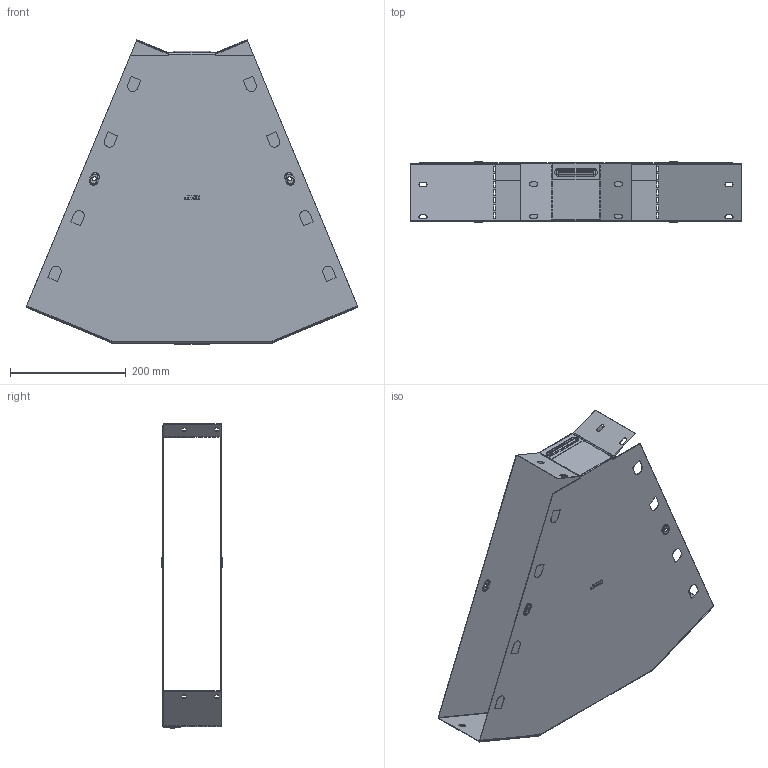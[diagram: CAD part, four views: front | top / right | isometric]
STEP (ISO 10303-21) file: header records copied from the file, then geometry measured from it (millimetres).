
FILE_DESCRIPTION (( 'STEP AP214' ), '1' );
FILE_NAME ('g45100500_捘.STEP', '2019-06-10T08:37:40', ( '砐錪賧瘔蠈錪 Windows' ), ( '' ), 'SwSTEP 2.0', 'SolidWorks 2018', '' );
FILE_SCHEMA (( 'AUTOMOTIVE_DESIGN' ));
Length unit declared in the file: millimetre
Products named in the file (1): g45100500_捘
Bounding box: 573.02 x 103.8 x 525.57 mm (x, y, z)
Volume: 383352.7 mm3; surface area: 963725 mm2
Topology: 2 solids, 2 shells, 644 faces, 1816 edges, 1148 vertices
Faces by surface type: plane 370, cylinder 192, torus 64, bspline 18
Entity records: 21724 total; most frequent: CARTESIAN_POINT 4628, ORIENTED_EDGE 3632, DIRECTION 3514, EDGE_CURVE 1816, LINE 1300, VECTOR 1300, VERTEX_POINT 1148, AXIS2_PLACEMENT_3D 1107
